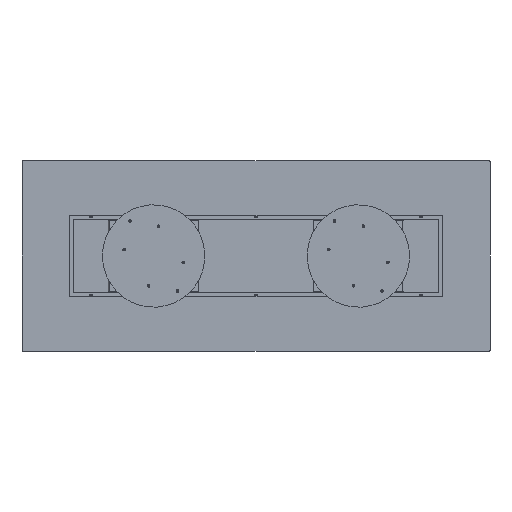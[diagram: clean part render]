
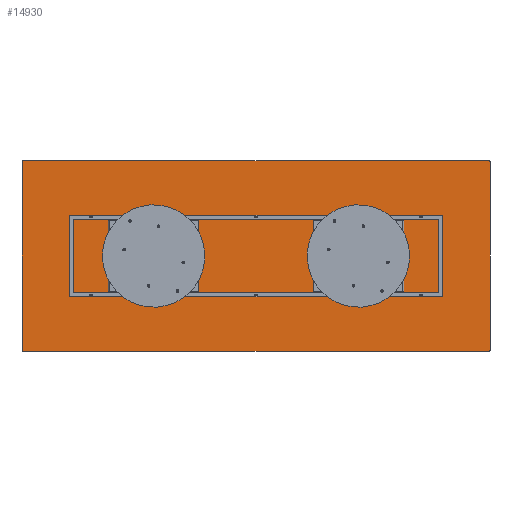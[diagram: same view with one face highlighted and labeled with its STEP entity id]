
A CAD part, front view. The second image highlights one B-rep face of the part: STEP entity #14930.
In plain terms, the highlighted planar face has unit normal (0, -1, 0).
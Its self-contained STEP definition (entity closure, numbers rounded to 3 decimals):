
#660 = CARTESIAN_POINT ( 'NONE',  ( 1595., 0., -645. ) ) ;
#1383 = DIRECTION ( 'NONE',  ( 0., -1., 0. ) ) ;
#1706 = EDGE_CURVE ( 'NONE', #11759, #5390, #13747, .T. ) ;
#1858 = ORIENTED_EDGE ( 'NONE', *, *, #19689, .T. ) ;
#1924 = DIRECTION ( 'NONE',  ( -1., 0., 0. ) ) ;
#2352 = VECTOR ( 'NONE', #6592, 1000. ) ;
#2399 = CARTESIAN_POINT ( 'NONE',  ( -1600., 0., -645. ) ) ;
#2446 = CARTESIAN_POINT ( 'NONE',  ( -1595., 0., -645. ) ) ;
#3065 = EDGE_CURVE ( 'NONE', #7524, #5390, #20944, .T. ) ;
#3232 = AXIS2_PLACEMENT_3D ( 'NONE', #2446, #9172, #15713 ) ;
#3237 = DIRECTION ( 'NONE',  ( 0., -1., 0. ) ) ;
#3350 = ORIENTED_EDGE ( 'NONE', *, *, #20476, .F. ) ;
#3485 = FACE_OUTER_BOUND ( 'NONE', #13109, .T. ) ;
#4787 = VERTEX_POINT ( 'NONE', #10937 ) ;
#4874 = LINE ( 'NONE', #18074, #2352 ) ;
#4893 = AXIS2_PLACEMENT_3D ( 'NONE', #660, #10590, #17365 ) ;
#4965 = VERTEX_POINT ( 'NONE', #6473 ) ;
#5110 = PLANE ( 'NONE',  #14350 ) ;
#5138 = VERTEX_POINT ( 'NONE', #16856 ) ;
#5313 = DIRECTION ( 'NONE',  ( 0., 0., 1. ) ) ;
#5390 = VERTEX_POINT ( 'NONE', #19442 ) ;
#5393 = CIRCLE ( 'NONE', #9466, 5. ) ;
#5559 = LINE ( 'NONE', #10455, #6642 ) ;
#6243 = VERTEX_POINT ( 'NONE', #2399 ) ;
#6348 = CARTESIAN_POINT ( 'NONE',  ( 1595., 0., 645. ) ) ;
#6473 = CARTESIAN_POINT ( 'NONE',  ( 1595., 0., 650. ) ) ;
#6592 = DIRECTION ( 'NONE',  ( 0., 0., 1. ) ) ;
#6642 = VECTOR ( 'NONE', #1924, 1000. ) ;
#7035 = CARTESIAN_POINT ( 'NONE',  ( 1595., 0., -650. ) ) ;
#7336 = CIRCLE ( 'NONE', #3232, 5. ) ;
#7524 = VERTEX_POINT ( 'NONE', #15411 ) ;
#8429 = CARTESIAN_POINT ( 'NONE',  ( -1595., 0., 650. ) ) ;
#8498 = ORIENTED_EDGE ( 'NONE', *, *, #13442, .F. ) ;
#9172 = DIRECTION ( 'NONE',  ( 0., -1., 0. ) ) ;
#9466 = AXIS2_PLACEMENT_3D ( 'NONE', #6348, #3237, #14473 ) ;
#10000 = DIRECTION ( 'NONE',  ( 0., 1., 0. ) ) ;
#10159 = ORIENTED_EDGE ( 'NONE', *, *, #12557, .T. ) ;
#10455 = CARTESIAN_POINT ( 'NONE',  ( -1600., 0., -650. ) ) ;
#10590 = DIRECTION ( 'NONE',  ( 0., -1., 0. ) ) ;
#10937 = CARTESIAN_POINT ( 'NONE',  ( -1600., 0., 645. ) ) ;
#11217 = CARTESIAN_POINT ( 'NONE',  ( 1600., 0., -650. ) ) ;
#11603 = CARTESIAN_POINT ( 'NONE',  ( 0., 0., 0. ) ) ;
#11759 = VERTEX_POINT ( 'NONE', #7035 ) ;
#12263 = ORIENTED_EDGE ( 'NONE', *, *, #16138, .T. ) ;
#12353 = AXIS2_PLACEMENT_3D ( 'NONE', #16482, #1383, #21045 ) ;
#12557 = EDGE_CURVE ( 'NONE', #7524, #4965, #5393, .T. ) ;
#12600 = ORIENTED_EDGE ( 'NONE', *, *, #19576, .F. ) ;
#13089 = LINE ( 'NONE', #18270, #19367 ) ;
#13109 = EDGE_LOOP ( 'NONE', ( #16548, #10159, #3350, #12263, #8498, #1858, #12600, #20508 ) ) ;
#13392 = CIRCLE ( 'NONE', #12353, 5. ) ;
#13442 = EDGE_CURVE ( 'NONE', #6243, #4787, #4874, .T. ) ;
#13747 = CIRCLE ( 'NONE', #4893, 5. ) ;
#14350 = AXIS2_PLACEMENT_3D ( 'NONE', #11603, #10000, #5313 ) ;
#14473 = DIRECTION ( 'NONE',  ( 0., 0., 1. ) ) ;
#14927 = DIRECTION ( 'NONE',  ( 1., 0., 0. ) ) ;
#14930 = ADVANCED_FACE ( 'NONE', ( #3485 ), #5110, .F. ) ;
#15411 = CARTESIAN_POINT ( 'NONE',  ( 1600., 0., 645. ) ) ;
#15713 = DIRECTION ( 'NONE',  ( 0., 0., 1. ) ) ;
#16138 = EDGE_CURVE ( 'NONE', #19936, #4787, #13392, .T. ) ;
#16482 = CARTESIAN_POINT ( 'NONE',  ( -1595., 0., 645. ) ) ;
#16548 = ORIENTED_EDGE ( 'NONE', *, *, #3065, .F. ) ;
#16835 = VECTOR ( 'NONE', #19418, 1000. ) ;
#16856 = CARTESIAN_POINT ( 'NONE',  ( -1595., 0., -650. ) ) ;
#17365 = DIRECTION ( 'NONE',  ( 0., 0., 1. ) ) ;
#18074 = CARTESIAN_POINT ( 'NONE',  ( -1600., 0., -650. ) ) ;
#18270 = CARTESIAN_POINT ( 'NONE',  ( -1600., 0., 650. ) ) ;
#19367 = VECTOR ( 'NONE', #14927, 1000. ) ;
#19418 = DIRECTION ( 'NONE',  ( 0., 0., -1. ) ) ;
#19442 = CARTESIAN_POINT ( 'NONE',  ( 1600., 0., -645. ) ) ;
#19576 = EDGE_CURVE ( 'NONE', #11759, #5138, #5559, .T. ) ;
#19689 = EDGE_CURVE ( 'NONE', #6243, #5138, #7336, .T. ) ;
#19936 = VERTEX_POINT ( 'NONE', #8429 ) ;
#20476 = EDGE_CURVE ( 'NONE', #19936, #4965, #13089, .T. ) ;
#20508 = ORIENTED_EDGE ( 'NONE', *, *, #1706, .T. ) ;
#20944 = LINE ( 'NONE', #11217, #16835 ) ;
#21045 = DIRECTION ( 'NONE',  ( 0., 0., 1. ) ) ;
